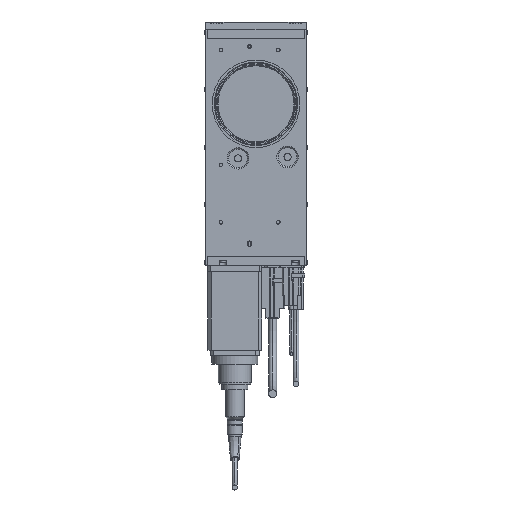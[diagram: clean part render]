
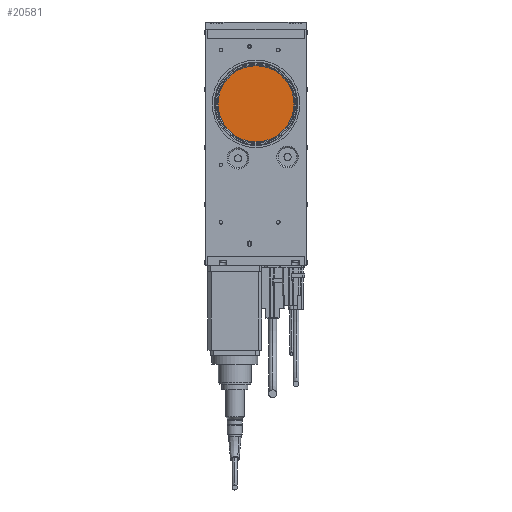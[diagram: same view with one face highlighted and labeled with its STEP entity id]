
A CAD part, front view. The second image highlights one B-rep face of the part: STEP entity #20581.
In plain terms, the highlighted planar face has unit normal (0, -1, 0).
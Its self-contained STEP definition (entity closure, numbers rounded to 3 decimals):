
#2033 = EDGE_CURVE ( 'NONE', #32782, #24548, #3959, .T. ) ;
#2249 = EDGE_CURVE ( 'NONE', #24548, #32782, #33504, .T. ) ;
#3959 = CIRCLE ( 'NONE', #28919, 53. ) ;
#4847 = CARTESIAN_POINT ( 'NONE',  ( 9., 6., -48. ) ) ;
#9553 = DIRECTION ( 'NONE',  ( 0., 1., 0. ) ) ;
#10640 = ORIENTED_EDGE ( 'NONE', *, *, #2249, .F. ) ;
#10732 = ORIENTED_EDGE ( 'NONE', *, *, #2033, .F. ) ;
#11292 = DIRECTION ( 'NONE',  ( 0., 1., 0. ) ) ;
#17908 = DIRECTION ( 'NONE',  ( 0., 0., 1. ) ) ;
#19898 = CARTESIAN_POINT ( 'NONE',  ( -44., 6., 5. ) ) ;
#20581 = ADVANCED_FACE ( 'NONE', ( #22879 ), #33907, .F. ) ;
#20902 = DIRECTION ( 'NONE',  ( 0., 1., 0. ) ) ;
#22879 = FACE_OUTER_BOUND ( 'NONE', #26490, .T. ) ;
#23234 = DIRECTION ( 'NONE',  ( 0., 0., 1. ) ) ;
#24548 = VERTEX_POINT ( 'NONE', #26442 ) ;
#24801 = CARTESIAN_POINT ( 'NONE',  ( 9., 6., 5. ) ) ;
#26442 = CARTESIAN_POINT ( 'NONE',  ( 9., 6., 58. ) ) ;
#26490 = EDGE_LOOP ( 'NONE', ( #10640, #10732 ) ) ;
#28919 = AXIS2_PLACEMENT_3D ( 'NONE', #24801, #11292, #32986 ) ;
#29045 = CARTESIAN_POINT ( 'NONE',  ( 9., 6., 5. ) ) ;
#32569 = AXIS2_PLACEMENT_3D ( 'NONE', #19898, #9553, #23234 ) ;
#32782 = VERTEX_POINT ( 'NONE', #4847 ) ;
#32986 = DIRECTION ( 'NONE',  ( 0., 0., 1. ) ) ;
#33504 = CIRCLE ( 'NONE', #34068, 53. ) ;
#33907 = PLANE ( 'NONE',  #32569 ) ;
#34068 = AXIS2_PLACEMENT_3D ( 'NONE', #29045, #20902, #17908 ) ;
